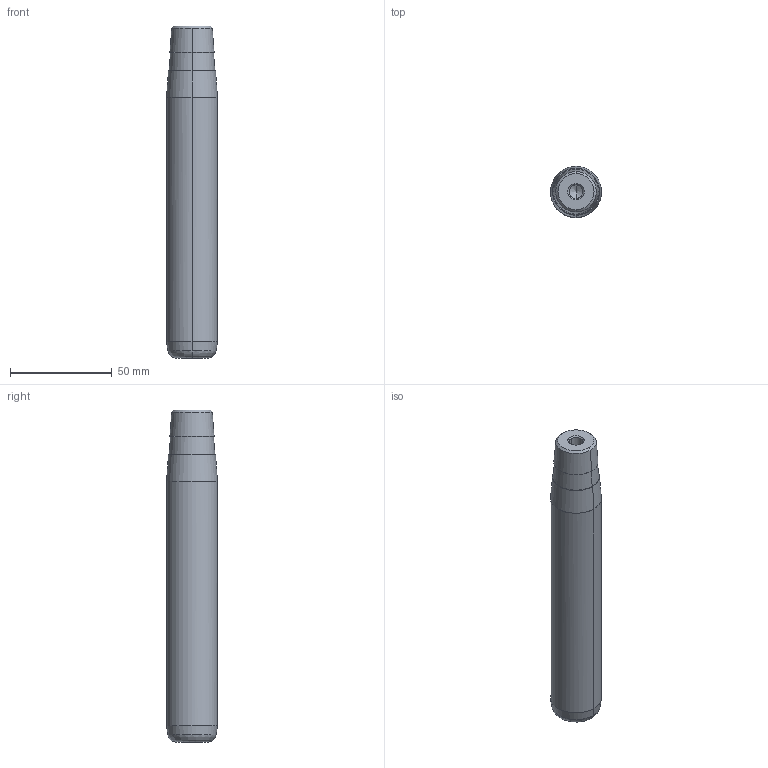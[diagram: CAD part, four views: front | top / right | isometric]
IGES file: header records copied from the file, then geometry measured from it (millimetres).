
Start section: START RECORD GO HERE.
Global section: file name: 722-25x140x163.igs; native system: DASSAULT SYSTEMES CATIA V5 R20 - www.3ds.com; preprocessor: CATIA Version 5 Release 20 ; author: Utente; organization: NB04-ASUS; date: 20210109.090617; units: millimetre
Bounding box: 25 x 25 x 163 mm (x, y, z)
Surface area: 14188.5 mm2 (no closed solid volume)
Topology: 0 solids, 0 shells, 32 faces, 192 edges, 188 vertices
Faces by surface type: revolution 30, plane 2
